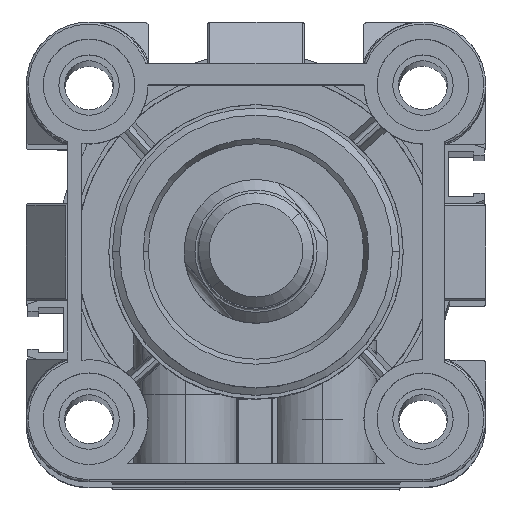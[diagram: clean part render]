
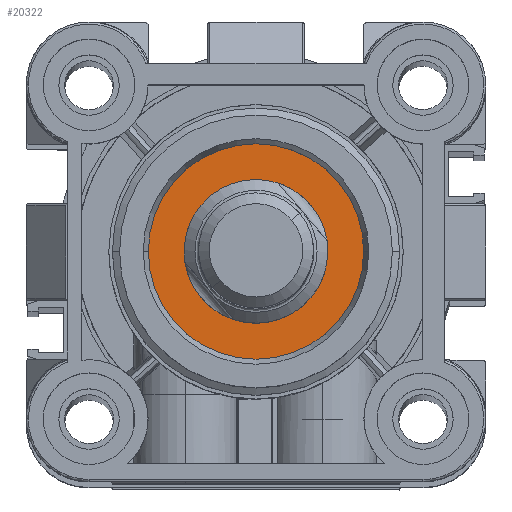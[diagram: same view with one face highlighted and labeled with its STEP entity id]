
A CAD part, top view. The second image highlights one B-rep face of the part: STEP entity #20322.
In plain terms, the highlighted planar face has unit normal (0, 0, 1) as drawn and (0, 0, -1) by its records, which use the part's own axes.
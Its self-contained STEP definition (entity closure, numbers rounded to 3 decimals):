
#73 = CARTESIAN_POINT ( 'NONE',  ( 11.25, 26.25, -25.4 ) ) ;
#655 = FACE_BOUND ( 'NONE', #17828, .T. ) ;
#1094 = CARTESIAN_POINT ( 'NONE',  ( 41.43, 11.07, -25.4 ) ) ;
#1634 = EDGE_CURVE ( 'NONE', #4208, #13185, #2658, .T. ) ;
#1784 = CARTESIAN_POINT ( 'NONE',  ( 41.25, 26.25, -25.4 ) ) ;
#2011 = AXIS2_PLACEMENT_3D ( 'NONE', #15230, #5628, #16831 ) ;
#2344 = AXIS2_PLACEMENT_3D ( 'NONE', #1094, #12317, #2691 ) ;
#2354 = VERTEX_POINT ( 'NONE', #1784 ) ;
#2658 = CIRCLE ( 'NONE', #19560, 10. ) ;
#2691 = DIRECTION ( 'NONE',  ( -1., 0., 0. ) ) ;
#4017 = EDGE_CURVE ( 'NONE', #13185, #4208, #9997, .T. ) ;
#4208 = VERTEX_POINT ( 'NONE', #20597 ) ;
#4806 = ORIENTED_EDGE ( 'NONE', *, *, #19062, .T. ) ;
#5628 = DIRECTION ( 'NONE',  ( 0., 0., -1. ) ) ;
#5842 = EDGE_CURVE ( 'NONE', #2354, #12602, #7937, .T. ) ;
#6037 = EDGE_LOOP ( 'NONE', ( #14727, #4806 ) ) ;
#6784 = CARTESIAN_POINT ( 'NONE',  ( 26.25, 26.25, -25.4 ) ) ;
#7488 = PLANE ( 'NONE',  #2344 ) ;
#7937 = CIRCLE ( 'NONE', #16277, 15. ) ;
#8405 = DIRECTION ( 'NONE',  ( 0., 1., 0. ) ) ;
#8588 = DIRECTION ( 'NONE',  ( 0., 0., -1. ) ) ;
#9034 = DIRECTION ( 'NONE',  ( 0., 0., -1. ) ) ;
#9216 = FACE_OUTER_BOUND ( 'NONE', #6037, .T. ) ;
#9997 = CIRCLE ( 'NONE', #15920, 10. ) ;
#11213 = CARTESIAN_POINT ( 'NONE',  ( 26.25, 36.25, -25.4 ) ) ;
#12317 = DIRECTION ( 'NONE',  ( 0., 0., -1. ) ) ;
#12602 = VERTEX_POINT ( 'NONE', #73 ) ;
#13004 = CIRCLE ( 'NONE', #2011, 15. ) ;
#13185 = VERTEX_POINT ( 'NONE', #11213 ) ;
#14727 = ORIENTED_EDGE ( 'NONE', *, *, #5842, .T. ) ;
#15230 = CARTESIAN_POINT ( 'NONE',  ( 26.25, 26.25, -25.4 ) ) ;
#15920 = AXIS2_PLACEMENT_3D ( 'NONE', #18176, #8588, #19813 ) ;
#16277 = AXIS2_PLACEMENT_3D ( 'NONE', #18635, #9034, #20269 ) ;
#16359 = ORIENTED_EDGE ( 'NONE', *, *, #1634, .F. ) ;
#16831 = DIRECTION ( 'NONE',  ( 1., 0., 0. ) ) ;
#17828 = EDGE_LOOP ( 'NONE', ( #20585, #16359 ) ) ;
#18007 = DIRECTION ( 'NONE',  ( 0., 0., -1. ) ) ;
#18176 = CARTESIAN_POINT ( 'NONE',  ( 26.25, 26.25, -25.4 ) ) ;
#18635 = CARTESIAN_POINT ( 'NONE',  ( 26.25, 26.25, -25.4 ) ) ;
#19062 = EDGE_CURVE ( 'NONE', #12602, #2354, #13004, .T. ) ;
#19560 = AXIS2_PLACEMENT_3D ( 'NONE', #6784, #18007, #8405 ) ;
#19813 = DIRECTION ( 'NONE',  ( 0., 1., 0. ) ) ;
#20269 = DIRECTION ( 'NONE',  ( 1., 0., 0. ) ) ;
#20322 = ADVANCED_FACE ( 'NONE', ( #655, #9216 ), #7488, .T. ) ;
#20585 = ORIENTED_EDGE ( 'NONE', *, *, #4017, .F. ) ;
#20597 = CARTESIAN_POINT ( 'NONE',  ( 26.25, 16.25, -25.4 ) ) ;
